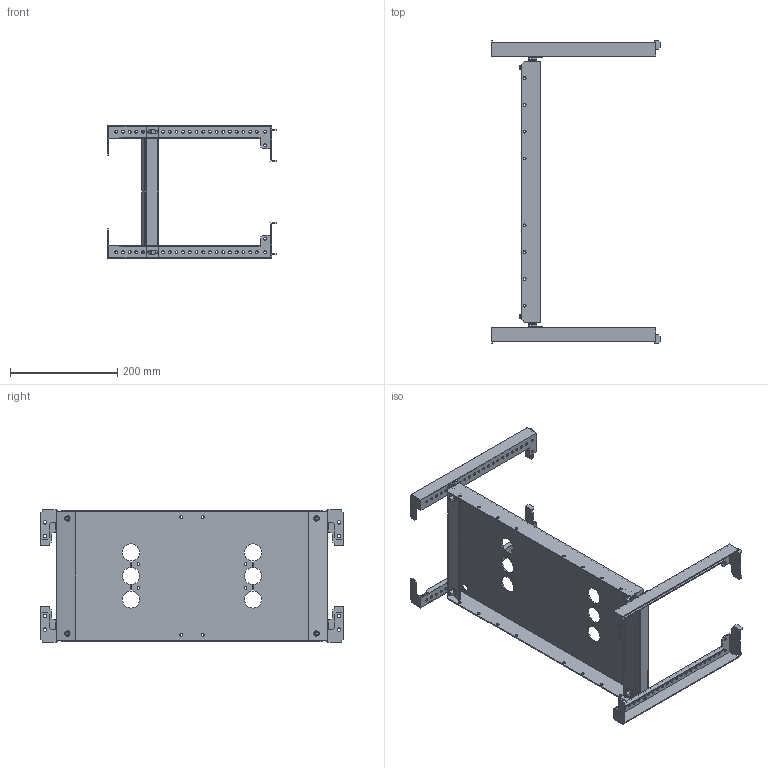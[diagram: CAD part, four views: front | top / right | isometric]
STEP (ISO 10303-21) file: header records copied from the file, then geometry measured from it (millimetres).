
FILE_DESCRIPTION (( 'STEP AP214' ), '1' );
FILE_NAME ('FO-00-HIF-025-060 Êîìïëåêò ãîðèçîíòàëüíîé óñòàíîâêè ARMAT MCCB òèïîðàçìåð H I ôèêñèðîâàííîãî èñïîëíåíèÿ 3P 250õ600 ìì.STEP', '2025-07-16T07:17:16', ( '' ), ( '' ), 'SwSTEP 2.0', 'SolidWorks 2023', '' );
FILE_SCHEMA (( 'AUTOMOTIVE_DESIGN' ));
Length unit declared in the file: millimetre
Products named in the file (5): Траверса горизонтальная; Винты DIN 912 4xM6x20 250x600; Панель монтажная H I фиксирвоанная; Траверса горизонтальнаяD; FO-00-HIF-025-060 Комплект горизонтальной установки ARMAT MCCB типоразмер H I фиксированного исполнения 3P 250х600 мм
Assembly tree (6 placements, depth 2):
  FO-00-HIF-025-060 Комплект горизонтальной установки ARMAT MCCB типоразмер H I фиксированного исполнения 3P 250х600 мм
    Панель монтажная H I фиксирвоанная
    Винты DIN 912 4xM6x20 250x600
    Траверса горизонтальная  x2
    Траверса горизонтальнаяD  x2
Bounding box: 314.5 x 565.63 x 247 mm (x, y, z)
Volume: 570170.3 mm3; surface area: 588143.2 mm2
Topology: 9 solids, 13 shells, 1024 faces, 2782 edges, 1832 vertices
Faces by surface type: cylinder 478, plane 458, cone 56, torus 32
Entity records: 26493 total; most frequent: CARTESIAN_POINT 5423, DIRECTION 4478, ORIENTED_EDGE 4232, EDGE_CURVE 2116, AXIS2_PLACEMENT_3D 1635, VERTEX_POINT 1388, VECTOR 1208, LINE 1208
